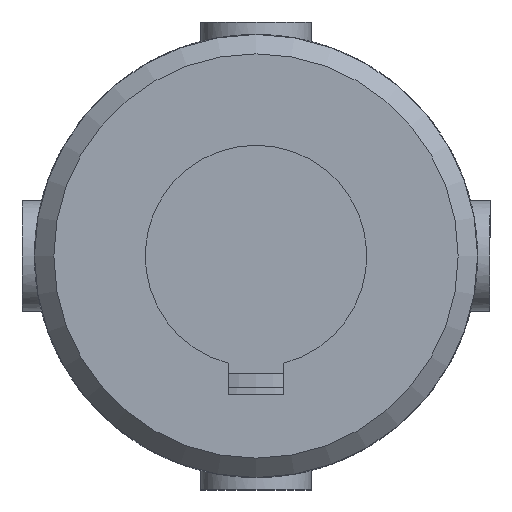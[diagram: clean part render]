
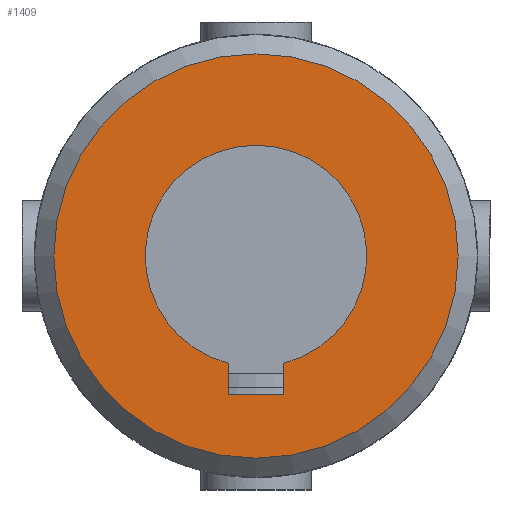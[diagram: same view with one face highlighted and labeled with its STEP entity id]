
A CAD part, front view. The second image highlights one B-rep face of the part: STEP entity #1409.
In plain terms, the highlighted planar face has unit normal (0, -1, 0).
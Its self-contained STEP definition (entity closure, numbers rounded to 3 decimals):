
#110=LINE('',#2707,#167);
#115=LINE('',#2724,#172);
#116=LINE('',#2733,#173);
#167=VECTOR('',#1831,1.127);
#172=VECTOR('',#1842,1.127);
#173=VECTOR('',#1845,2.);
#219=PLANE('',#1546);
#332=FACE_BOUND('',#513,.T.);
#400=FACE_OUTER_BOUND('',#512,.T.);
#512=EDGE_LOOP('',(#1228));
#513=EDGE_LOOP('',(#1229,#1230,#1231,#1232));
#577=CIRCLE('',#1534,4.);
#582=CIRCLE('',#1544,7.3);
#692=VERTEX_POINT('',#2696);
#693=VERTEX_POINT('',#2698);
#695=VERTEX_POINT('',#2706);
#701=VERTEX_POINT('',#2722);
#703=VERTEX_POINT('',#2739);
#868=EDGE_CURVE('',#693,#692,#577,.T.);
#871=EDGE_CURVE('',#695,#693,#110,.T.);
#879=EDGE_CURVE('',#692,#701,#115,.T.);
#881=EDGE_CURVE('',#701,#695,#116,.T.);
#884=EDGE_CURVE('',#703,#703,#582,.T.);
#1228=ORIENTED_EDGE('',*,*,#884,.F.);
#1229=ORIENTED_EDGE('',*,*,#879,.T.);
#1230=ORIENTED_EDGE('',*,*,#881,.T.);
#1231=ORIENTED_EDGE('',*,*,#871,.T.);
#1232=ORIENTED_EDGE('',*,*,#868,.T.);
#1409=ADVANCED_FACE('',(#400,#332),#219,.F.);
#1534=AXIS2_PLACEMENT_3D('',#2699,#1826,#1827);
#1544=AXIS2_PLACEMENT_3D('',#2740,#1854,#1855);
#1546=AXIS2_PLACEMENT_3D('',#2908,#1862,#1863);
#1826=DIRECTION('center_axis',(0.,1.,0.));
#1827=DIRECTION('ref_axis',(-0.25,0.,0.968));
#1831=DIRECTION('',(0.,0.,1.));
#1842=DIRECTION('',(0.,0.,-1.));
#1845=DIRECTION('',(-1.,0.,0.));
#1854=DIRECTION('center_axis',(0.,1.,0.));
#1855=DIRECTION('ref_axis',(1.,0.,0.));
#1862=DIRECTION('center_axis',(0.,1.,0.));
#1863=DIRECTION('ref_axis',(0.,0.,1.));
#2696=CARTESIAN_POINT('',(1.,-24.,-3.873));
#2698=CARTESIAN_POINT('',(-1.,-24.,-3.873));
#2699=CARTESIAN_POINT('Origin',(0.,-24.,0.));
#2706=CARTESIAN_POINT('',(-1.,-24.,-5.));
#2707=CARTESIAN_POINT('',(-1.,-24.,-2.5));
#2722=CARTESIAN_POINT('',(1.,-24.,-5.));
#2724=CARTESIAN_POINT('',(1.,-24.,-1.936));
#2733=CARTESIAN_POINT('',(0.5,-24.,-5.));
#2739=CARTESIAN_POINT('',(-7.3,-24.,0.));
#2740=CARTESIAN_POINT('Origin',(0.,-24.,0.));
#2908=CARTESIAN_POINT('Origin',(0.,-24.,0.));
